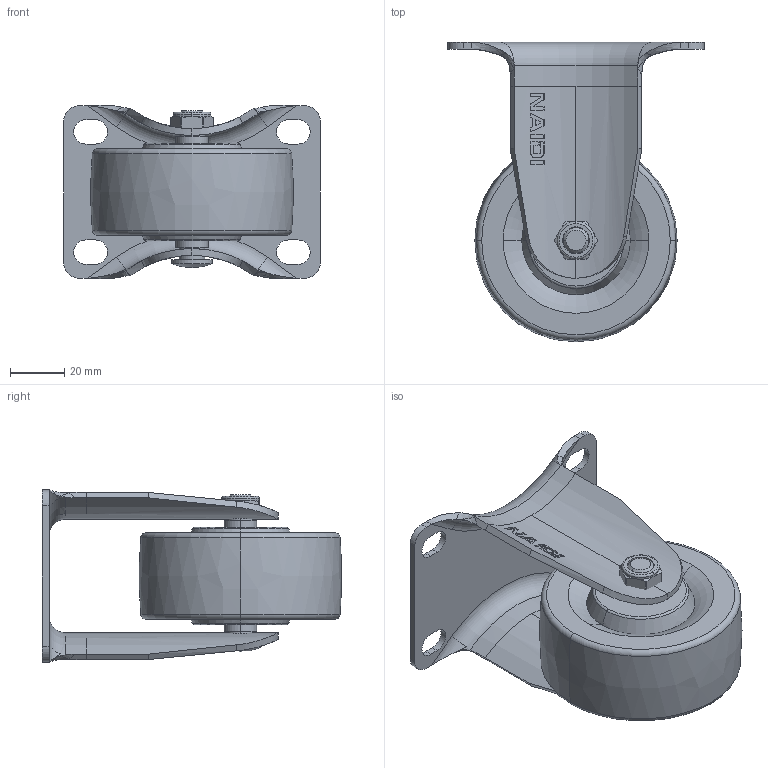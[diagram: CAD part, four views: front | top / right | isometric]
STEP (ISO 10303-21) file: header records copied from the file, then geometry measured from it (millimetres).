
FILE_DESCRIPTION((''),'2;1');
FILE_NAME('B55103_ASM','2024-08-13T',('Lenovo'),(''),'PRO/ENGINEER BY PARAMETRIC TECHNOLOGY CORPORATION, 2010280','PRO/ENGINEER BY PARAMETRIC TECHNOLOGY CORPORATION, 2010280','');
FILE_SCHEMA(('CONFIG_CONTROL_DESIGN'));
Length unit declared in the file: millimetre
Products named in the file (6): B5513-301; B553-986; 500-54; 570-33; 570-34; B55103_ASM
Assembly tree (5 placements, depth 2):
  B55103_ASM
    B5513-301
    B553-986
    500-54
    570-33
    570-34
Bounding box: 95 x 110.73 x 64.27 mm (x, y, z)
Volume: 172335 mm3; surface area: 49924.3 mm2
Topology: 5 solids, 5 shells, 223 faces, 556 edges, 347 vertices
Faces by surface type: plane 79, cylinder 60, bspline 46, torus 18, cone 18, sphere 2
Entity records: 8655 total; most frequent: CARTESIAN_POINT 3409, ORIENTED_EDGE 1108, DIRECTION 1004, EDGE_CURVE 554, AXIS2_PLACEMENT_3D 380, VERTEX_POINT 347, EDGE_LOOP 247, VECTOR 244
